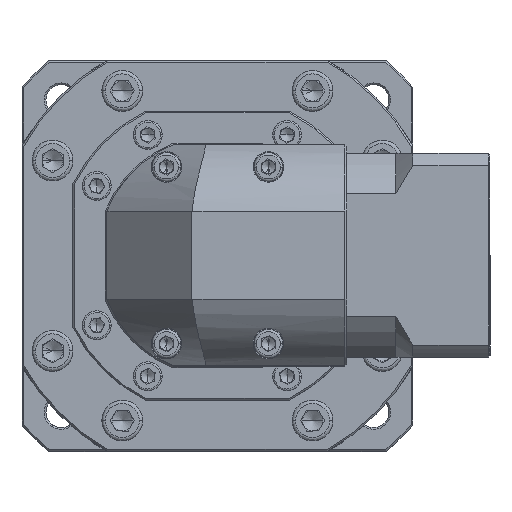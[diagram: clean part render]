
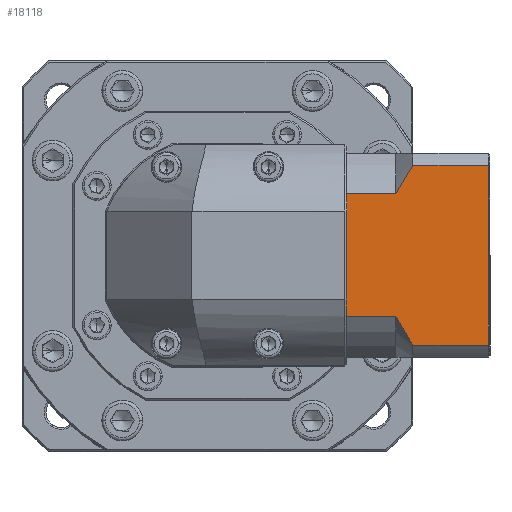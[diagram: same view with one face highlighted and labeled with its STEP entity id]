
A CAD part, top view. The second image highlights one B-rep face of the part: STEP entity #18118.
In plain terms, the highlighted planar face has unit normal (0, 0, 1).
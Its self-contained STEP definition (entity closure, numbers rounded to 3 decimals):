
#2148 = EDGE_CURVE ( 'NONE', #45138, #26526, #105498, .T. ) ;
#4230 = LINE ( 'NONE', #35654, #17790 ) ;
#5430 = CARTESIAN_POINT ( 'NONE',  ( -131.967, 88.562, 144.207 ) ) ;
#6091 = VECTOR ( 'NONE', #30129, 1000. ) ;
#7763 = DIRECTION ( 'NONE',  ( 1., 0., 0. ) ) ;
#9478 = CARTESIAN_POINT ( 'NONE',  ( -114.24, 95.245, 144.207 ) ) ;
#9908 = VERTEX_POINT ( 'NONE', #62550 ) ;
#10397 = CARTESIAN_POINT ( 'NONE',  ( -112.467, 97.983, 144.207 ) ) ;
#11581 = ORIENTED_EDGE ( 'NONE', *, *, #120668, .F. ) ;
#16172 = VECTOR ( 'NONE', #123370, 1000. ) ;
#17790 = VECTOR ( 'NONE', #102447, 1000. ) ;
#18118 = ADVANCED_FACE ( 'NONE', ( #81147 ), #65996, .F. ) ;
#18453 = EDGE_CURVE ( 'NONE', #128418, #104176, #45568, .T. ) ;
#22586 = CARTESIAN_POINT ( 'NONE',  ( -131.967, 101.526, 144.207 ) ) ;
#23109 = CARTESIAN_POINT ( 'NONE',  ( -117.467, 89.553, 144.207 ) ) ;
#23236 = CARTESIAN_POINT ( 'NONE',  ( -112.467, 45.068, 144.207 ) ) ;
#23523 = ORIENTED_EDGE ( 'NONE', *, *, #66565, .F. ) ;
#23525 = DIRECTION ( 'NONE',  ( 0., -1., 0. ) ) ;
#24508 = DIRECTION ( 'NONE',  ( 1., 0., 0. ) ) ;
#26526 = VERTEX_POINT ( 'NONE', #101470 ) ;
#30129 = DIRECTION ( 'NONE',  ( 0., -1., 0. ) ) ;
#30314 = B_SPLINE_CURVE_WITH_KNOTS ( 'NONE', 3,
 ( #86783, #106615, #108439, #32188, #138654, #65198 ),
 .UNSPECIFIED., .F., .F.,
 ( 4, 2, 4 ),
 ( 0.1, 0.104, 0.109 ),
 .UNSPECIFIED. ) ;
#30798 = ORIENTED_EDGE ( 'NONE', *, *, #84835, .F. ) ;
#32188 = CARTESIAN_POINT ( 'NONE',  ( -114.242, 47.811, 144.207 ) ) ;
#34821 = LINE ( 'NONE', #72532, #6091 ) ;
#35654 = CARTESIAN_POINT ( 'NONE',  ( -117.467, 53.498, 144.207 ) ) ;
#39184 = CARTESIAN_POINT ( 'NONE',  ( -131.967, 54.489, 144.207 ) ) ;
#41945 = DIRECTION ( 'NONE',  ( -1., 0., 0. ) ) ;
#43173 = EDGE_LOOP ( 'NONE', ( #11581, #94018, #103732, #71859, #23523, #60081, #136727, #87797, #30798, #117914 ) ) ;
#45138 = VERTEX_POINT ( 'NONE', #39184 ) ;
#45568 = LINE ( 'NONE', #54951, #70782 ) ;
#52157 = CARTESIAN_POINT ( 'NONE',  ( -90.267, 97.983, 144.207 ) ) ;
#54193 = CARTESIAN_POINT ( 'NONE',  ( -115.915, 92.437, 144.207 ) ) ;
#54282 = VECTOR ( 'NONE', #7763, 1000. ) ;
#54951 = CARTESIAN_POINT ( 'NONE',  ( -90.267, 101.526, 144.207 ) ) ;
#58786 = VERTEX_POINT ( 'NONE', #5430 ) ;
#60081 = ORIENTED_EDGE ( 'NONE', *, *, #117546, .T. ) ;
#62550 = CARTESIAN_POINT ( 'NONE',  ( -117.467, 53.498, 144.207 ) ) ;
#65198 = CARTESIAN_POINT ( 'NONE',  ( -112.467, 45.068, 144.207 ) ) ;
#65996 = PLANE ( 'NONE',  #137078 ) ;
#66565 = EDGE_CURVE ( 'NONE', #91373, #131340, #129861, .T. ) ;
#67405 = EDGE_CURVE ( 'NONE', #9908, #108333, #30314, .T. ) ;
#67740 = CARTESIAN_POINT ( 'NONE',  ( -117.467, 89.553, 144.207 ) ) ;
#67831 = LINE ( 'NONE', #106195, #54282 ) ;
#70782 = VECTOR ( 'NONE', #75688, 1000. ) ;
#71859 = ORIENTED_EDGE ( 'NONE', *, *, #90406, .T. ) ;
#72042 = B_SPLINE_CURVE_WITH_KNOTS ( 'NONE', 3,
 ( #10397, #107447, #9478, #54193, #118235, #96153 ),
 .UNSPECIFIED., .F., .F.,
 ( 4, 2, 4 ),
 ( 0.052, 0.057, 0.062 ),
 .UNSPECIFIED. ) ;
#72532 = CARTESIAN_POINT ( 'NONE',  ( -131.967, 101.526, 144.207 ) ) ;
#73949 = CARTESIAN_POINT ( 'NONE',  ( -112.467, 97.983, 144.207 ) ) ;
#75688 = DIRECTION ( 'NONE',  ( 0., 1., 0. ) ) ;
#78124 = DIRECTION ( 'NONE',  ( 1., 0., 0. ) ) ;
#80803 = CARTESIAN_POINT ( 'NONE',  ( -131.967, 89.553, 144.207 ) ) ;
#81147 = FACE_OUTER_BOUND ( 'NONE', #43173, .T. ) ;
#84835 = EDGE_CURVE ( 'NONE', #9908, #26526, #4230, .T. ) ;
#86783 = CARTESIAN_POINT ( 'NONE',  ( -117.467, 53.498, 144.207 ) ) ;
#86917 = VECTOR ( 'NONE', #23525, 1000. ) ;
#87797 = ORIENTED_EDGE ( 'NONE', *, *, #2148, .T. ) ;
#89027 = CARTESIAN_POINT ( 'NONE',  ( -89.767, 101.526, 144.207 ) ) ;
#89166 = LINE ( 'NONE', #127533, #126163 ) ;
#90406 = EDGE_CURVE ( 'NONE', #108737, #131340, #72042, .T. ) ;
#91373 = VERTEX_POINT ( 'NONE', #80803 ) ;
#94018 = ORIENTED_EDGE ( 'NONE', *, *, #18453, .T. ) ;
#96153 = CARTESIAN_POINT ( 'NONE',  ( -117.467, 89.553, 144.207 ) ) ;
#101470 = CARTESIAN_POINT ( 'NONE',  ( -131.967, 53.498, 144.207 ) ) ;
#102367 = CARTESIAN_POINT ( 'NONE',  ( -90.267, 45.068, 144.207 ) ) ;
#102447 = DIRECTION ( 'NONE',  ( -1., 0., 0. ) ) ;
#103732 = ORIENTED_EDGE ( 'NONE', *, *, #111619, .F. ) ;
#104176 = VERTEX_POINT ( 'NONE', #52157 ) ;
#105498 = LINE ( 'NONE', #122004, #16172 ) ;
#106195 = CARTESIAN_POINT ( 'NONE',  ( -117.467, 97.983, 144.207 ) ) ;
#106615 = CARTESIAN_POINT ( 'NONE',  ( -116.717, 52.041, 144.207 ) ) ;
#107447 = CARTESIAN_POINT ( 'NONE',  ( -113.366, 96.623, 144.207 ) ) ;
#108333 = VERTEX_POINT ( 'NONE', #23236 ) ;
#108439 = CARTESIAN_POINT ( 'NONE',  ( -115.916, 50.616, 144.207 ) ) ;
#108737 = VERTEX_POINT ( 'NONE', #73949 ) ;
#110658 = DIRECTION ( 'NONE',  ( 0., 0., -1. ) ) ;
#111619 = EDGE_CURVE ( 'NONE', #108737, #104176, #67831, .T. ) ;
#115618 = LINE ( 'NONE', #22586, #86917 ) ;
#117546 = EDGE_CURVE ( 'NONE', #91373, #58786, #34821, .T. ) ;
#117914 = ORIENTED_EDGE ( 'NONE', *, *, #67405, .T. ) ;
#118014 = EDGE_CURVE ( 'NONE', #58786, #45138, #115618, .T. ) ;
#118235 = CARTESIAN_POINT ( 'NONE',  ( -116.719, 91.005, 144.207 ) ) ;
#119721 = VECTOR ( 'NONE', #78124, 1000. ) ;
#120668 = EDGE_CURVE ( 'NONE', #128418, #108333, #89166, .T. ) ;
#122004 = CARTESIAN_POINT ( 'NONE',  ( -131.967, 101.526, 144.207 ) ) ;
#123370 = DIRECTION ( 'NONE',  ( 0., -1., 0. ) ) ;
#126163 = VECTOR ( 'NONE', #41945, 1000. ) ;
#127533 = CARTESIAN_POINT ( 'NONE',  ( -117.467, 45.068, 144.207 ) ) ;
#128418 = VERTEX_POINT ( 'NONE', #102367 ) ;
#129861 = LINE ( 'NONE', #23109, #119721 ) ;
#131340 = VERTEX_POINT ( 'NONE', #67740 ) ;
#136727 = ORIENTED_EDGE ( 'NONE', *, *, #118014, .T. ) ;
#137078 = AXIS2_PLACEMENT_3D ( 'NONE', #89027, #110658, #24508 ) ;
#138654 = CARTESIAN_POINT ( 'NONE',  ( -113.368, 46.431, 144.207 ) ) ;
